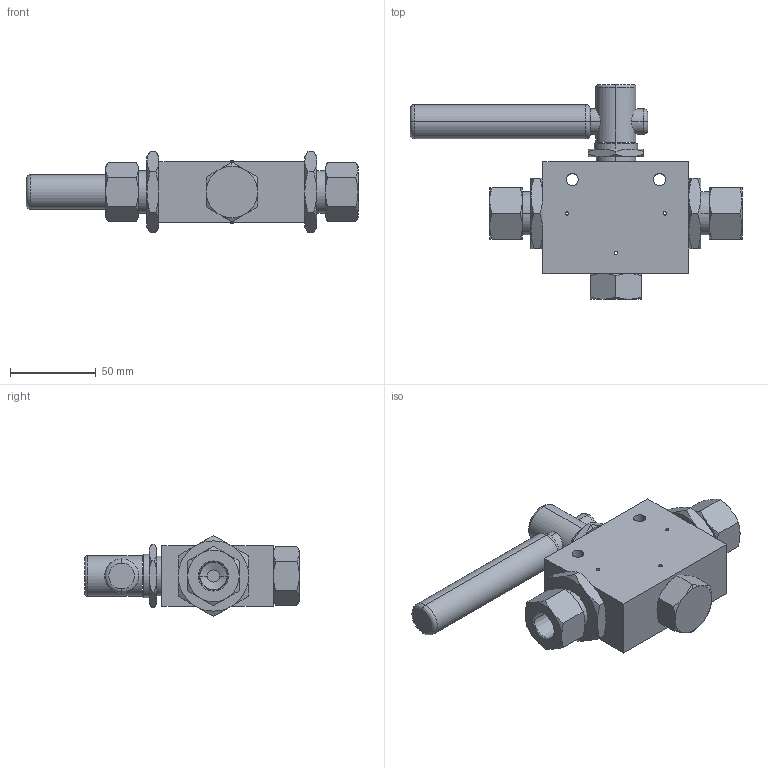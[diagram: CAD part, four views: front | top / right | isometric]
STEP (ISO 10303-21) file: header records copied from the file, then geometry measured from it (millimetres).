
FILE_DESCRIPTION (( 'STEP AP203' ), '1' );
FILE_NAME ('BVP05S06-2-90.STEP', '2022-04-12T10:51:46', ( '' ), ( '' ), 'SwSTEP 2.0', 'SolidWorks 2020', '' );
FILE_SCHEMA (( 'CONFIG_CONTROL_DESIGN' ));
Length unit declared in the file: millimetre
Products named in the file (1): BVP05S06-2-90
Bounding box: 193.5 x 125 x 47.34 mm (x, y, z)
Volume: 304637.3 mm3; surface area: 47858.5 mm2
Topology: 1 solids, 1 shells, 198 faces, 442 edges, 260 vertices
Faces by surface type: cone 90, plane 64, cylinder 36, torus 8
Entity records: 6371 total; most frequent: CARTESIAN_POINT 2057, ORIENTED_EDGE 884, DIRECTION 868, EDGE_CURVE 442, AXIS2_PLACEMENT_3D 379, VERTEX_POINT 260, EDGE_LOOP 226, FACE_OUTER_BOUND 198
